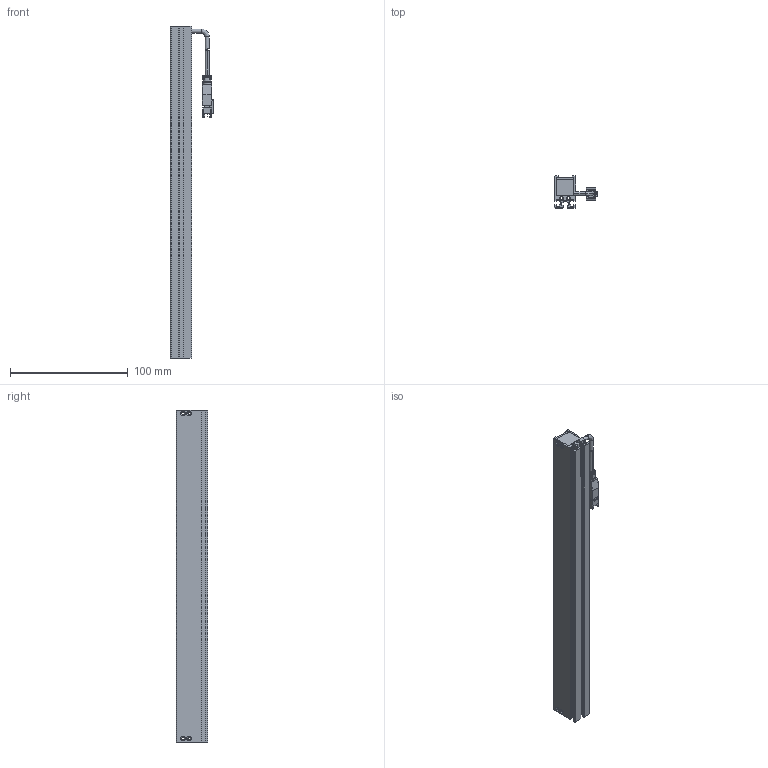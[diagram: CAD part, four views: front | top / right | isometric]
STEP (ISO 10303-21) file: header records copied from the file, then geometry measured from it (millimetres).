
FILE_DESCRIPTION (( 'STEP AP203' ), '1' );
FILE_NAME ('CST-2BS28218-¼òÒ×3DÍ¼.STEP', '2021-06-15T09:13:05', ( '' ), ( '' ), 'SwSTEP 2.0', 'SolidWorks 2018', '' );
FILE_SCHEMA (( 'CONFIG_CONTROL_DESIGN' ));
Length unit declared in the file: millimetre
Products named in the file (1): CST-2BS28218-潠眢3D芞
Bounding box: 36.55 x 27 x 282 mm (x, y, z)
Surface area: 77541.4 mm2 (no closed solid volume)
Topology: 0 solids, 12 shells, 508 faces, 1365 edges, 864 vertices
Faces by surface type: plane 267, cylinder 155, cone 52, bspline 28, torus 6
Entity records: 16414 total; most frequent: CARTESIAN_POINT 3778, ORIENTED_EDGE 2643, DIRECTION 2567, EDGE_CURVE 1345, VECTOR 901, LINE 901, VERTEX_POINT 864, AXIS2_PLACEMENT_3D 833
